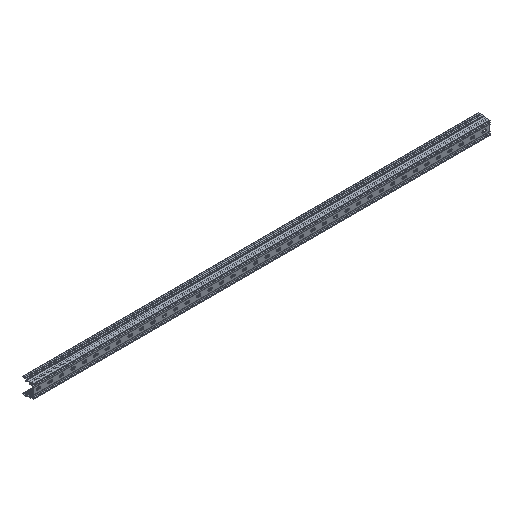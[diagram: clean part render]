
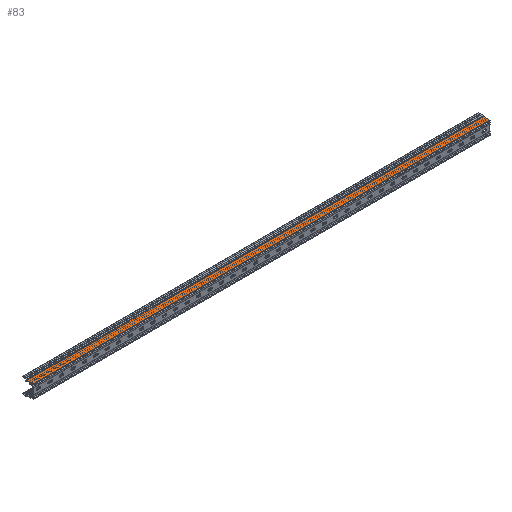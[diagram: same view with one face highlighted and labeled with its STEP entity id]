
A CAD part, isometric view. The second image highlights one B-rep face of the part: STEP entity #83.
In plain terms, the highlighted planar face has unit normal (0, 0, 1).
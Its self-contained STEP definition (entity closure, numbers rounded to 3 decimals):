
#83 = ADVANCED_FACE( '', ( #404 ), #405, .F. );
#404 = FACE_OUTER_BOUND( '', #1028, .T. );
#405 = PLANE( '', #1029 );
#1028 = EDGE_LOOP( '', ( #1812, #1813, #1814, #1815 ) );
#1029 = AXIS2_PLACEMENT_3D( '', #1816, #1817, #1818 );
#1812 = ORIENTED_EDGE( '', *, *, #4218, .T. );
#1813 = ORIENTED_EDGE( '', *, *, #4219, .F. );
#1814 = ORIENTED_EDGE( '', *, *, #4220, .F. );
#1815 = ORIENTED_EDGE( '', *, *, #4216, .T. );
#1816 = CARTESIAN_POINT( '', ( 1080., 15.19, 16. ) );
#1817 = DIRECTION( '', ( 0., 0., -1. ) );
#1818 = DIRECTION( '', ( -1., 0., 0. ) );
#4216 = EDGE_CURVE( '', #5205, #5203, #5206, .T. );
#4218 = EDGE_CURVE( '', #5203, #5208, #5209, .T. );
#4219 = EDGE_CURVE( '', #5210, #5208, #5211, .T. );
#4220 = EDGE_CURVE( '', #5205, #5210, #5212, .T. );
#5203 = VERTEX_POINT( '', #6652 );
#5205 = VERTEX_POINT( '', #6655 );
#5206 = LINE( '', #6656, #6657 );
#5208 = VERTEX_POINT( '', #6660 );
#5209 = LINE( '', #6661, #6662 );
#5210 = VERTEX_POINT( '', #6663 );
#5211 = LINE( '', #6664, #6665 );
#5212 = LINE( '', #6666, #6667 );
#6652 = CARTESIAN_POINT( '', ( 0., 15.19, 16. ) );
#6655 = CARTESIAN_POINT( '', ( 1080., 15.19, 16. ) );
#6656 = CARTESIAN_POINT( '', ( 1080., 15.19, 16. ) );
#6657 = VECTOR( '', #8460, 1000. );
#6660 = CARTESIAN_POINT( '', ( 0., 0.3, 16. ) );
#6661 = CARTESIAN_POINT( '', ( 0., 15.19, 16. ) );
#6662 = VECTOR( '', #8462, 1000. );
#6663 = CARTESIAN_POINT( '', ( 1080., 0.3, 16. ) );
#6664 = CARTESIAN_POINT( '', ( 1080., 0.3, 16. ) );
#6665 = VECTOR( '', #8463, 1000. );
#6666 = CARTESIAN_POINT( '', ( 1080., 15.19, 16. ) );
#6667 = VECTOR( '', #8464, 1000. );
#8460 = DIRECTION( '', ( -1., 0., 0. ) );
#8462 = DIRECTION( '', ( 0., -1., 0. ) );
#8463 = DIRECTION( '', ( -1., 0., 0. ) );
#8464 = DIRECTION( '', ( 0., -1., 0. ) );
